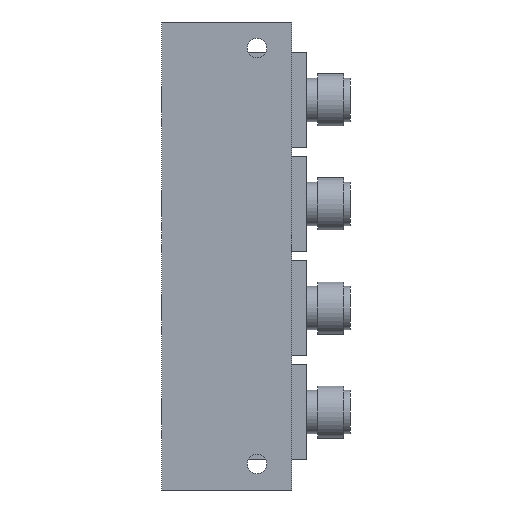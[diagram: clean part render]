
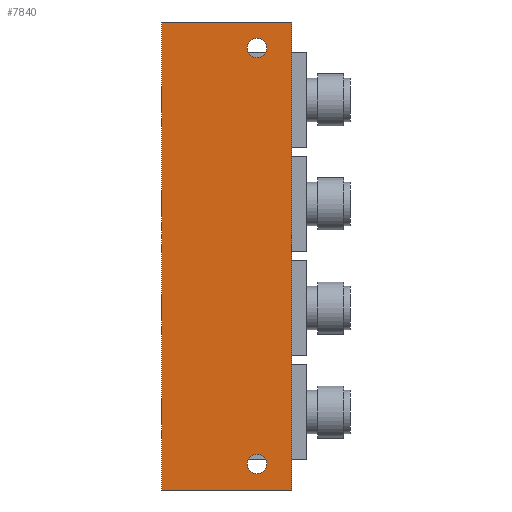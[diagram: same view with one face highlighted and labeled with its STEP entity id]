
A CAD part, left-side view. The second image highlights one B-rep face of the part: STEP entity #7840.
In plain terms, the highlighted planar face has unit normal (-1, 0, 0).
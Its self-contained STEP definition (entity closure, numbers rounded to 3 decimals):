
#2068 = CARTESIAN_POINT ( 'NONE',  ( -10., 15., 0. ) ) ;
#2069 = DIRECTION ( 'NONE',  ( 0., 0., -1. ) ) ;
#2097 = CARTESIAN_POINT ( 'NONE',  ( -10., -15., 0. ) ) ;
#2098 = DIRECTION ( 'NONE',  ( 0., 0., -1. ) ) ;
#2108 = CARTESIAN_POINT ( 'NONE',  ( -10., -7., -102. ) ) ;
#2111 = CARTESIAN_POINT ( 'NONE',  ( -10., -15., -108. ) ) ;
#2112 = DIRECTION ( 'NONE',  ( 0., -1., 0. ) ) ;
#2117 = DIRECTION ( 'NONE',  ( 1., 0., 0. ) ) ;
#2118 = DIRECTION ( 'NONE',  ( 0., 0., -1. ) ) ;
#2119 = CARTESIAN_POINT ( 'NONE',  ( -10., -7., -6. ) ) ;
#2126 = DIRECTION ( 'NONE',  ( 1., 0., 0. ) ) ;
#2127 = DIRECTION ( 'NONE',  ( 0., 0., -1. ) ) ;
#2146 = CARTESIAN_POINT ( 'NONE',  ( -10., -15., 0. ) ) ;
#2147 = DIRECTION ( 'NONE',  ( 0., 1., 0. ) ) ;
#2817 = LINE ( 'NONE', #2068, #2826 ) ;
#2826 = VECTOR ( 'NONE', #2069, 1000. ) ;
#2840 = LINE ( 'NONE', #2097, #2841 ) ;
#2841 = VECTOR ( 'NONE', #2098, 1000. ) ;
#2842 = LINE ( 'NONE', #2111, #2846 ) ;
#2846 = VECTOR ( 'NONE', #2112, 1000. ) ;
#2848 = LINE ( 'NONE', #2146, #2849 ) ;
#2849 = VECTOR ( 'NONE', #2147, 1000. ) ;
#2851 = CIRCLE ( 'NONE', #3607, 2.25 ) ;
#2854 = CIRCLE ( 'NONE', #3610, 2.25 ) ;
#3607 = AXIS2_PLACEMENT_3D ( 'NONE', #2108, #2117, #2118 ) ;
#3610 = AXIS2_PLACEMENT_3D ( 'NONE', #2119, #2126, #2127 ) ;
#5446 = CARTESIAN_POINT ( 'NONE',  ( -10., -15., 0. ) ) ;
#5452 = CARTESIAN_POINT ( 'NONE',  ( -10., 15., -108. ) ) ;
#5557 = CARTESIAN_POINT ( 'NONE',  ( -10., 15., 0. ) ) ;
#5570 = CARTESIAN_POINT ( 'NONE',  ( -10., -15., -108. ) ) ;
#7141 = VERTEX_POINT ( 'NONE', #7142 ) ;
#7142 = CARTESIAN_POINT ( 'NONE',  ( -10., -7., -104.25 ) ) ;
#7147 = VERTEX_POINT ( 'NONE', #7148 ) ;
#7148 = CARTESIAN_POINT ( 'NONE',  ( -10., -7., -8.25 ) ) ;
#7840 = ADVANCED_FACE ( 'NONE', ( #16622, #16625, #16629 ), #17205, .T. ) ;
#8390 = EDGE_CURVE ( 'NONE', #10778, #10673, #2817, .T. ) ;
#8401 = EDGE_CURVE ( 'NONE', #10667, #10791, #2840, .T. ) ;
#8406 = EDGE_CURVE ( 'NONE', #10673, #10791, #2842, .T. ) ;
#8408 = EDGE_CURVE ( 'NONE', #7141, #7141, #2851, .T. ) ;
#8411 = EDGE_CURVE ( 'NONE', #7147, #7147, #2854, .T. ) ;
#8418 = EDGE_CURVE ( 'NONE', #10667, #10778, #2848, .T. ) ;
#9109 = ORIENTED_EDGE ( 'NONE', *, *, #8408, .T. ) ;
#9110 = ORIENTED_EDGE ( 'NONE', *, *, #8411, .T. ) ;
#9111 = ORIENTED_EDGE ( 'NONE', *, *, #8406, .T. ) ;
#9112 = ORIENTED_EDGE ( 'NONE', *, *, #8401, .F. ) ;
#9113 = ORIENTED_EDGE ( 'NONE', *, *, #8418, .T. ) ;
#9114 = ORIENTED_EDGE ( 'NONE', *, *, #8390, .T. ) ;
#9904 = EDGE_LOOP ( 'NONE', ( #9109 ) ) ;
#10009 = EDGE_LOOP ( 'NONE', ( #9110 ) ) ;
#10667 = VERTEX_POINT ( 'NONE', #5446 ) ;
#10673 = VERTEX_POINT ( 'NONE', #5452 ) ;
#10778 = VERTEX_POINT ( 'NONE', #5557 ) ;
#10791 = VERTEX_POINT ( 'NONE', #5570 ) ;
#12741 = EDGE_LOOP ( 'NONE', ( #9111, #9112, #9113, #9114 ) ) ;
#16017 = AXIS2_PLACEMENT_3D ( 'NONE', #17227, #17228, #17229 ) ;
#16622 = FACE_BOUND ( 'NONE', #9904, .T. ) ;
#16625 = FACE_BOUND ( 'NONE', #10009, .T. ) ;
#16629 = FACE_OUTER_BOUND ( 'NONE', #12741, .T. ) ;
#17205 = PLANE ( 'NONE',  #16017 ) ;
#17227 = CARTESIAN_POINT ( 'NONE',  ( -10., 15., 0. ) ) ;
#17228 = DIRECTION ( 'NONE',  ( -1., 0., 0. ) ) ;
#17229 = DIRECTION ( 'NONE',  ( 0., 0.707, 0.707 ) ) ;
